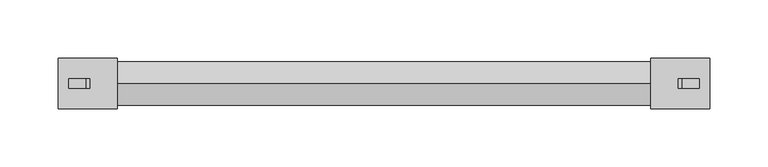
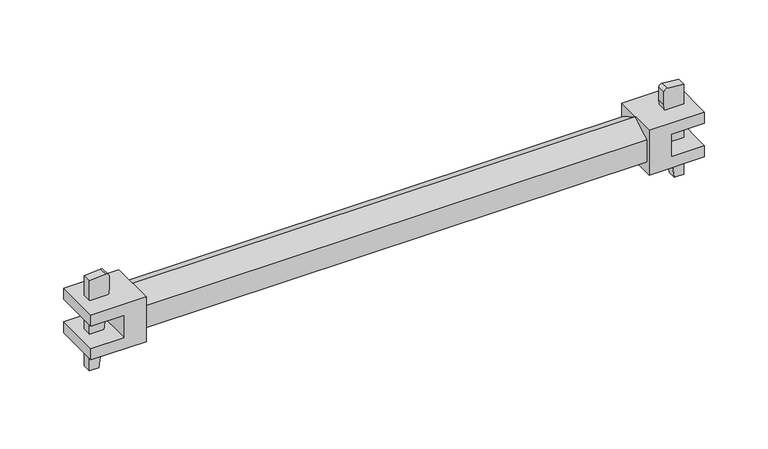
"""IFC4 building model written with IfcOpenShell, lengths in millimetres: proxy geometry, AK_アルバトロスＡＫ布材L=600_軽 : AK_アルバトロスＡＫ布材L=600_軽."""

from ifc_helpers import new_model, si_unit, point, frame, frame_2d, origin, place, context, project, spatial, polyline, circle_curve, trimmed, segment, composite_curve, outline, extrude, source, transform, mapped, element, save


def generic_models_4928589d(model_context):
    return source(origin(), model_context, "Body", "SweptSolid", [
        extrude(outline(polyline([(-10.75, 21.0592), (-21.5, 21.0592), (-21.5, 71.5), (21.5, 71.5), (21.5, 21.0592), (10.75, 21.0592), (10.75, 51.3), (-10.75, 51.3), (-10.75, 21.0592)])), frame((0.0, -21.5, 0.0), z_axis=(0.0, 1.0, 0.0), x_axis=(0.0, 0.0, 1.0)), (0.0, 0.0, 1.0), 43.0),
        extrude(outline(composite_curve([segment(trimmed(circle_curve(frame_2d((39.0692, 44.8)), 3.0), [point((39.0692, 47.8))], [point((42.0590201, 44.5530676))], False, "CARTESIAN"), True, "CONTINUOUS"), segment(polyline([(42.0590201, 44.5530676), (40.7682926, 29.8), (-45.68165, 29.8), (-45.68165, 38.5388248), (27.3200065, 47.8), (39.0692, 47.8)]), True, "CONTINUOUS")], self_intersect=False)), frame((0.0, -4.0, 0.0), z_axis=(0.0, 1.0, 0.0), x_axis=(0.0, 0.0, 1.0)), (0.0, 0.0, 1.0), 8.0),
        extrude(outline(polyline([(-10.75, 578.9408), (-10.75, 548.7), (10.75, 548.7), (10.75, 578.9408), (21.5, 578.9408), (21.5, 528.5), (-21.5, 528.5), (-21.5, 578.9408), (-10.75, 578.9408)])), frame((0.0, -21.5, 0.0), z_axis=(0.0, 1.0, 0.0), x_axis=(0.0, 0.0, 1.0)), (0.0, 0.0, 1.0), 43.0),
        extrude(outline(composite_curve([segment(polyline([(39.0692, 552.2), (27.3200065, 552.2), (-45.68165, 561.4611752), (-45.68165, 570.2), (40.7682926, 570.2), (42.0590201, 555.4469324)]), True, "CONTINUOUS"), segment(trimmed(circle_curve(frame_2d((39.0692, 555.2)), 3.0), [point((42.0590201, 555.4469324))], [point((39.0692, 552.2))], False, "CARTESIAN"), True, "CONTINUOUS")], self_intersect=False)), frame((0.0, -4.0, 0.0), z_axis=(0.0, 1.0, 0.0), x_axis=(0.0, 0.0, 1.0)), (0.0, 0.0, 1.0), 8.0),
        extrude(outline(polyline([(-18.4896424, 10.675), (0.0, 21.35), (18.4896424, 10.675), (18.4896424, -10.675), (0.0, -21.35), (-18.4896424, -10.675), (-18.4896424, 10.675)])), frame((71.4999948, 0.0, 0.0), z_axis=(1.0, 0.0, 0.0), x_axis=(0.0, 1.0, 0.0)), (0.0, 0.0, 1.0), 457.0000052),
    ])


if __name__ == "__main__":
    model = new_model("IFC4")
    model_context = context("Model", 3, world=origin())
    ifc_project = project(units=[si_unit("LENGTHUNIT", "METRE", prefix="MILLI")], contexts=[model_context])
    site = spatial("IfcSite", under=ifc_project)
    building = spatial("IfcBuilding", under=site)
    placement = place(None, origin())
    generic_models_shape = generic_models_4928589d(model_context)
    element("IfcBuildingElementProxy", 1, Name="AK_アルバトロスＡＫ布材L=600_軽 : AK_アルバトロスＡＫ布材L=600_軽", ObjectType="AK_アルバトロスＡＫ布材L=600_軽 : AK_アルバトロスＡＫ布材L=600_軽", at=placement, inside=building, context=model_context, shape_type="MappedRepresentation", body=[
        mapped(generic_models_shape, transform((0.0, 0.0, 0.0), x_axis=(1.0, 0.0, 0.0), y_axis=(0.0, 1.0, 0.0), z_axis=(0.0, 0.0, 1.0))),
    ])
    save(model, "model.ifc")
